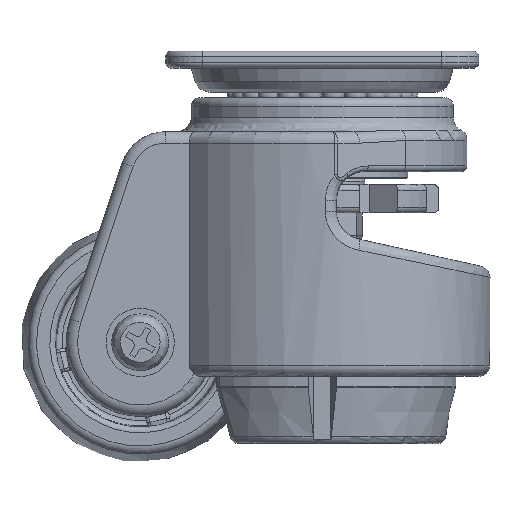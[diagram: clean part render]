
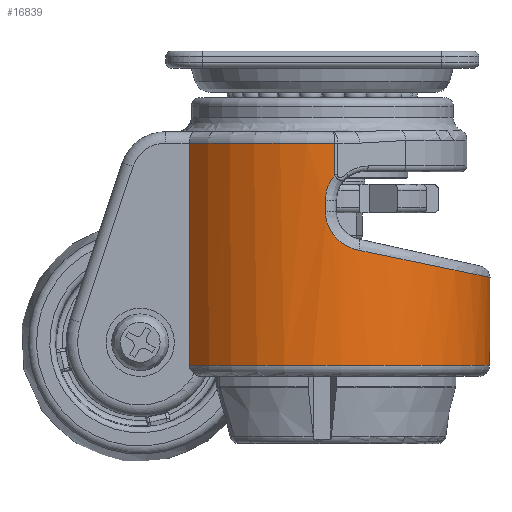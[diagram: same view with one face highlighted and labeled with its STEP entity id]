
A CAD part, front view. The second image highlights one B-rep face of the part: STEP entity #16839.
In plain terms, the highlighted cylindrical face has radius 29.5 mm (diameter 59 mm), a partial arc.
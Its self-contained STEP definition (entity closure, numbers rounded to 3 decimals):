
#15323=CARTESIAN_POINT('',(-23.372,18.0,-2.0));
#15324=VERTEX_POINT('',#15323);
#15648=CARTESIAN_POINT('',(-23.372,-18.0,-2.0));
#15649=VERTEX_POINT('',#15648);
#15687=CARTESIAN_POINT('',(-23.372,-18.0,-41.));
#15688=VERTEX_POINT('',#15687);
#15708=CARTESIAN_POINT('',(-23.372,-18.0,-2.0));
#15709=DIRECTION('',(0.0,0.0,-1.0));
#15710=VECTOR('',#15709,39.);
#15711=LINE('',#15708,#15710);
#15712=EDGE_CURVE('',#15649,#15688,#15711,.T.);
#16222=CARTESIAN_POINT('',(2.224,29.416,-2.0));
#16223=VERTEX_POINT('',#16222);
#16270=CARTESIAN_POINT('',(0.0,0.0,-2.0));
#16271=DIRECTION('',(0.0,0.0,1.0));
#16272=DIRECTION('',(-0.407,0.913,0.0));
#16273=AXIS2_PLACEMENT_3D('',#16270,#16271,#16272);
#16274=CIRCLE('',#16273,29.5);
#16275=EDGE_CURVE('',#16223,#15324,#16274,.T.);
#16323=CARTESIAN_POINT('',(2.224,-29.416,-2.));
#16324=VERTEX_POINT('',#16323);
#16396=CARTESIAN_POINT('',(0.0,0.0,-2.0));
#16397=DIRECTION('',(0.0,0.0,1.0));
#16398=DIRECTION('',(-0.407,-0.913,0.0));
#16399=AXIS2_PLACEMENT_3D('',#16396,#16397,#16398);
#16400=CIRCLE('',#16399,29.5);
#16401=EDGE_CURVE('',#15649,#16324,#16400,.T.);
#16704=CARTESIAN_POINT('',(2.224,-29.416,-7.578));
#16705=VERTEX_POINT('',#16704);
#16706=CARTESIAN_POINT('',(2.224,-29.416,-2.));
#16707=DIRECTION('',(0.0,0.0,-1.0));
#16708=VECTOR('',#16707,5.578);
#16709=LINE('',#16706,#16708);
#16710=EDGE_CURVE('',#16324,#16705,#16709,.T.);
#16723=CARTESIAN_POINT('',(0.0,0.0,0.0));
#16724=DIRECTION('',(0.0,0.0,-1.0));
#16725=DIRECTION('',(-1.0,0.0,0.0));
#16726=AXIS2_PLACEMENT_3D('',#16723,#16724,#16725);
#16727=CYLINDRICAL_SURFACE('',#16726,29.5);
#16728=ORIENTED_EDGE('',*,*,#16401,.F.);
#16729=ORIENTED_EDGE('',*,*,#15712,.T.);
#16730=CARTESIAN_POINT('',(-23.372,18.0,-41.));
#16731=VERTEX_POINT('',#16730);
#16732=CARTESIAN_POINT('',(0.0,0.0,-41.));
#16733=DIRECTION('',(0.0,0.0,-1.0));
#16734=DIRECTION('',(-1.0,0.0,0.0));
#16735=AXIS2_PLACEMENT_3D('',#16732,#16733,#16734);
#16736=CIRCLE('',#16735,29.5);
#16737=EDGE_CURVE('',#16731,#15688,#16736,.T.);
#16738=ORIENTED_EDGE('',*,*,#16737,.F.);
#16739=CARTESIAN_POINT('',(-23.372,18.0,-41.));
#16740=DIRECTION('',(0.0,0.0,1.0));
#16741=VECTOR('',#16740,39.);
#16742=LINE('',#16739,#16741);
#16743=EDGE_CURVE('',#16731,#15324,#16742,.T.);
#16744=ORIENTED_EDGE('',*,*,#16743,.T.);
#16745=ORIENTED_EDGE('',*,*,#16275,.F.);
#16746=CARTESIAN_POINT('',(2.224,29.416,-7.578));
#16747=VERTEX_POINT('',#16746);
#16748=CARTESIAN_POINT('',(2.224,29.416,-7.578));
#16749=DIRECTION('',(0.0,0.0,1.0));
#16750=VECTOR('',#16749,5.578);
#16751=LINE('',#16748,#16750);
#16752=EDGE_CURVE('',#16747,#16223,#16751,.T.);
#16753=ORIENTED_EDGE('',*,*,#16752,.F.);
#16754=CARTESIAN_POINT('',(0.536,29.495,-12.));
#16755=VERTEX_POINT('',#16754);
#16756=CARTESIAN_POINT('',(0.536,29.495,-12.0));
#16757=CARTESIAN_POINT('',(0.536,29.495,-11.706));
#16758=CARTESIAN_POINT('',(0.596,29.494,-10.819));
#16759=CARTESIAN_POINT('',(0.918,29.487,-9.661));
#16760=CARTESIAN_POINT('',(1.461,29.465,-8.597));
#16761=CARTESIAN_POINT('',(1.873,29.441,-7.996));
#16762=CARTESIAN_POINT('',(2.145,29.422,-7.669));
#16763=CARTESIAN_POINT('',(2.224,29.416,-7.578));
#16764=B_SPLINE_CURVE_WITH_KNOTS('',3,(#16756,#16757,#16758,#16759,#16760,#16761,#16762,#16763),.UNSPECIFIED.,.F.,.U.,(4,1,1,1,1,4),(-4.492,-4.404,-4.228,-4.14,-4.052,-4.017),.UNSPECIFIED.);
#16765=EDGE_CURVE('',#16755,#16747,#16764,.T.);
#16766=ORIENTED_EDGE('',*,*,#16765,.F.);
#16767=CARTESIAN_POINT('',(0.536,29.495,-13.989));
#16768=VERTEX_POINT('',#16767);
#16769=CARTESIAN_POINT('',(0.536,29.495,-13.989));
#16770=DIRECTION('',(0.0,0.0,1.0));
#16771=VECTOR('',#16770,1.989);
#16772=LINE('',#16769,#16771);
#16773=EDGE_CURVE('',#16768,#16755,#16772,.T.);
#16774=ORIENTED_EDGE('',*,*,#16773,.F.);
#16775=CARTESIAN_POINT('',(6.417,28.794,-20.822));
#16776=VERTEX_POINT('',#16775);
#16777=CARTESIAN_POINT('',(6.417,28.794,-20.822));
#16778=CARTESIAN_POINT('',(5.956,28.896,-20.727));
#16779=CARTESIAN_POINT('',(5.039,29.077,-20.45));
#16780=CARTESIAN_POINT('',(3.774,29.266,-19.799));
#16781=CARTESIAN_POINT('',(2.835,29.367,-19.066));
#16782=CARTESIAN_POINT('',(2.19,29.42,-18.389));
#16783=CARTESIAN_POINT('',(1.619,29.458,-17.66));
#16784=CARTESIAN_POINT('',(1.049,29.483,-16.65));
#16785=CARTESIAN_POINT('',(0.632,29.494,-15.35));
#16786=CARTESIAN_POINT('',(0.536,29.495,-14.44));
#16787=CARTESIAN_POINT('',(0.536,29.495,-13.989));
#16788=B_SPLINE_CURVE_WITH_KNOTS('',3,(#16777,#16778,#16779,#16780,#16781,#16782,#16783,#16784,#16785,#16786,#16787),.UNSPECIFIED.,.F.,.U.,(4,1,1,1,1,1,1,1,4),(-0.946,-0.811,-0.676,-0.541,-0.473,-0.405,-0.27,-0.135,0.0),.UNSPECIFIED.);
#16789=EDGE_CURVE('',#16776,#16768,#16788,.T.);
#16790=ORIENTED_EDGE('',*,*,#16789,.F.);
#16791=CARTESIAN_POINT('',(6.417,-28.794,-20.822));
#16792=VERTEX_POINT('',#16791);
#16793=CARTESIAN_POINT('',(0.0,0.0,-19.493));
#16794=DIRECTION('',(0.203,0.0,0.979));
#16795=DIRECTION('',(0.979,0.0,-0.203));
#16796=AXIS2_PLACEMENT_3D('',#16793,#16794,#16795);
#16797=ELLIPSE('',#16796,30.126,29.5);
#16798=EDGE_CURVE('',#16792,#16776,#16797,.T.);
#16799=ORIENTED_EDGE('',*,*,#16798,.F.);
#16800=CARTESIAN_POINT('',(0.536,-29.495,-13.989));
#16801=VERTEX_POINT('',#16800);
#16802=CARTESIAN_POINT('',(0.536,-29.495,-13.989));
#16803=CARTESIAN_POINT('',(0.536,-29.495,-14.44));
#16804=CARTESIAN_POINT('',(0.631,-29.494,-15.349));
#16805=CARTESIAN_POINT('',(0.981,-29.485,-16.435));
#16806=CARTESIAN_POINT('',(1.391,-29.468,-17.257));
#16807=CARTESIAN_POINT('',(1.763,-29.448,-17.844));
#16808=CARTESIAN_POINT('',(2.19,-29.42,-18.389));
#16809=CARTESIAN_POINT('',(2.836,-29.367,-19.067));
#16810=CARTESIAN_POINT('',(3.775,-29.266,-19.8));
#16811=CARTESIAN_POINT('',(5.038,-29.077,-20.45));
#16812=CARTESIAN_POINT('',(5.956,-28.896,-20.727));
#16813=CARTESIAN_POINT('',(6.417,-28.794,-20.822));
#16814=B_SPLINE_CURVE_WITH_KNOTS('',3,(#16802,#16803,#16804,#16805,#16806,#16807,#16808,#16809,#16810,#16811,#16812,#16813),.UNSPECIFIED.,.F.,.U.,(4,1,1,1,1,1,1,1,1,4),(-0.946,-0.811,-0.676,-0.608,-0.541,-0.473,-0.405,-0.27,-0.135,0.),.UNSPECIFIED.);
#16815=EDGE_CURVE('',#16801,#16792,#16814,.T.);
#16816=ORIENTED_EDGE('',*,*,#16815,.F.);
#16817=CARTESIAN_POINT('',(0.536,-29.495,-12.));
#16818=VERTEX_POINT('',#16817);
#16819=CARTESIAN_POINT('',(0.536,-29.495,-12.));
#16820=DIRECTION('',(0.0,0.0,-1.0));
#16821=VECTOR('',#16820,1.989);
#16822=LINE('',#16819,#16821);
#16823=EDGE_CURVE('',#16818,#16801,#16822,.T.);
#16824=ORIENTED_EDGE('',*,*,#16823,.F.);
#16825=CARTESIAN_POINT('',(2.224,-29.416,-7.578));
#16826=CARTESIAN_POINT('',(2.145,-29.422,-7.669));
#16827=CARTESIAN_POINT('',(1.873,-29.441,-7.996));
#16828=CARTESIAN_POINT('',(1.461,-29.465,-8.597));
#16829=CARTESIAN_POINT('',(0.918,-29.487,-9.661));
#16830=CARTESIAN_POINT('',(0.596,-29.494,-10.819));
#16831=CARTESIAN_POINT('',(0.536,-29.495,-11.706));
#16832=CARTESIAN_POINT('',(0.536,-29.495,-12.));
#16833=B_SPLINE_CURVE_WITH_KNOTS('',3,(#16825,#16826,#16827,#16828,#16829,#16830,#16831,#16832),.UNSPECIFIED.,.F.,.U.,(4,1,1,1,1,4),(-4.967,-4.932,-4.844,-4.756,-4.58,-4.492),.UNSPECIFIED.);
#16834=EDGE_CURVE('',#16705,#16818,#16833,.T.);
#16835=ORIENTED_EDGE('',*,*,#16834,.F.);
#16836=ORIENTED_EDGE('',*,*,#16710,.F.);
#16837=EDGE_LOOP('',(#16728,#16729,#16738,#16744,#16745,#16753,#16766,#16774,#16790,#16799,#16816,#16824,#16835,#16836));
#16838=FACE_OUTER_BOUND('',#16837,.T.);
#16839=ADVANCED_FACE('',(#16838),#16727,.T.);
